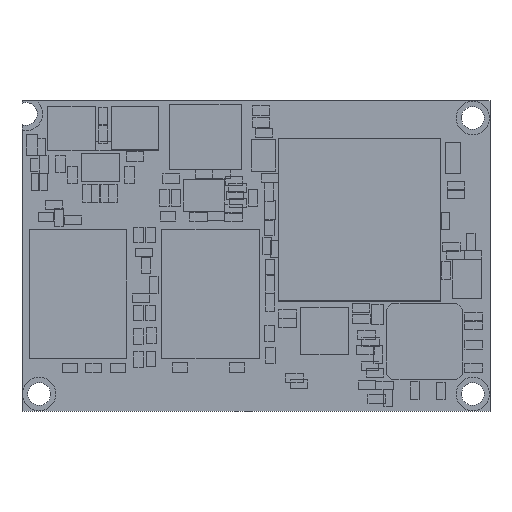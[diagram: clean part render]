
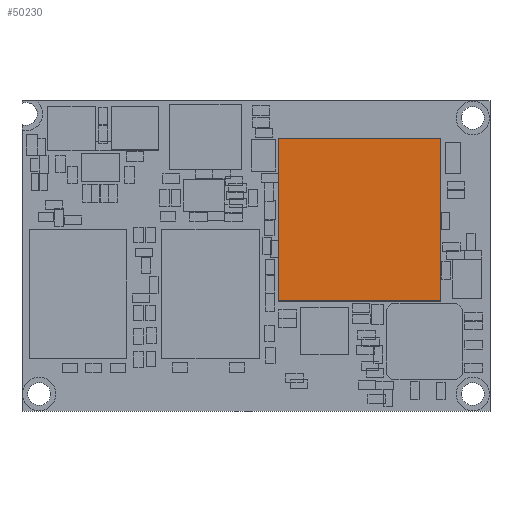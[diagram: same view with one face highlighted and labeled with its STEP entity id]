
A CAD part, top view. The second image highlights one B-rep face of the part: STEP entity #50230.
In plain terms, the highlighted planar face has unit normal (0, 0, 1).
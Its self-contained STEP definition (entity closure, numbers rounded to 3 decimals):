
#214 = VERTEX_POINT ( 'NONE', #32610 ) ;
#332 = ORIENTED_EDGE ( 'NONE', *, *, #23226, .T. ) ;
#405 = DIRECTION ( 'NONE',  ( 0., 0., 1. ) ) ;
#655 = CARTESIAN_POINT ( 'NONE',  ( 0., 0., 2.935 ) ) ;
#3632 = CARTESIAN_POINT ( 'NONE',  ( 43.864, 11.536, 2.935 ) ) ;
#3998 = DIRECTION ( 'NONE',  ( -1., 0., 0. ) ) ;
#6759 = VECTOR ( 'NONE', #3998, 1000. ) ;
#8371 = ORIENTED_EDGE ( 'NONE', *, *, #46410, .T. ) ;
#8957 = EDGE_CURVE ( 'NONE', #13324, #61178, #54929, .T. ) ;
#11667 = EDGE_CURVE ( 'NONE', #61178, #31882, #62884, .T. ) ;
#12321 = DIRECTION ( 'NONE',  ( 1., 0., 0. ) ) ;
#13324 = VERTEX_POINT ( 'NONE', #16014 ) ;
#13427 = VECTOR ( 'NONE', #20534, 1000. ) ;
#16014 = CARTESIAN_POINT ( 'NONE',  ( 26.864, 11.536, 2.935 ) ) ;
#20534 = DIRECTION ( 'NONE',  ( 0., 1., 0. ) ) ;
#23226 = EDGE_CURVE ( 'NONE', #31882, #214, #37318, .T. ) ;
#24118 = CARTESIAN_POINT ( 'NONE',  ( 26.864, 11.536, 2.935 ) ) ;
#26675 = CARTESIAN_POINT ( 'NONE',  ( 43.864, 28.536, 2.935 ) ) ;
#28183 = FACE_OUTER_BOUND ( 'NONE', #61392, .T. ) ;
#28551 = VECTOR ( 'NONE', #31577, 1000. ) ;
#31577 = DIRECTION ( 'NONE',  ( 0., -1., 0. ) ) ;
#31882 = VERTEX_POINT ( 'NONE', #26675 ) ;
#32610 = CARTESIAN_POINT ( 'NONE',  ( 26.864, 28.536, 2.935 ) ) ;
#37318 = LINE ( 'NONE', #55820, #6759 ) ;
#39603 = VECTOR ( 'NONE', #12321, 1000. ) ;
#43814 = LINE ( 'NONE', #60269, #28551 ) ;
#46410 = EDGE_CURVE ( 'NONE', #214, #13324, #43814, .T. ) ;
#46648 = PLANE ( 'NONE',  #50188 ) ;
#50188 = AXIS2_PLACEMENT_3D ( 'NONE', #655, #405, #52463 ) ;
#50230 = ADVANCED_FACE ( 'NONE', ( #28183 ), #46648, .T. ) ;
#52463 = DIRECTION ( 'NONE',  ( 1., 0., 0. ) ) ;
#53869 = ORIENTED_EDGE ( 'NONE', *, *, #11667, .T. ) ;
#54929 = LINE ( 'NONE', #24118, #39603 ) ;
#55820 = CARTESIAN_POINT ( 'NONE',  ( 43.864, 28.536, 2.935 ) ) ;
#58450 = ORIENTED_EDGE ( 'NONE', *, *, #8957, .T. ) ;
#60269 = CARTESIAN_POINT ( 'NONE',  ( 26.864, 28.536, 2.935 ) ) ;
#61178 = VERTEX_POINT ( 'NONE', #3632 ) ;
#61392 = EDGE_LOOP ( 'NONE', ( #8371, #58450, #53869, #332 ) ) ;
#62884 = LINE ( 'NONE', #66463, #13427 ) ;
#66463 = CARTESIAN_POINT ( 'NONE',  ( 43.864, 11.536, 2.935 ) ) ;
